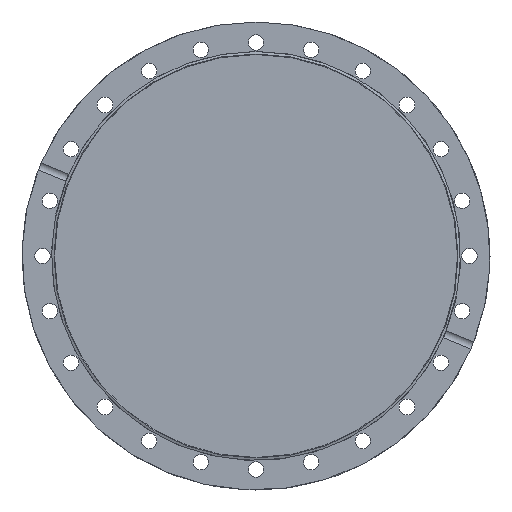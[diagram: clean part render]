
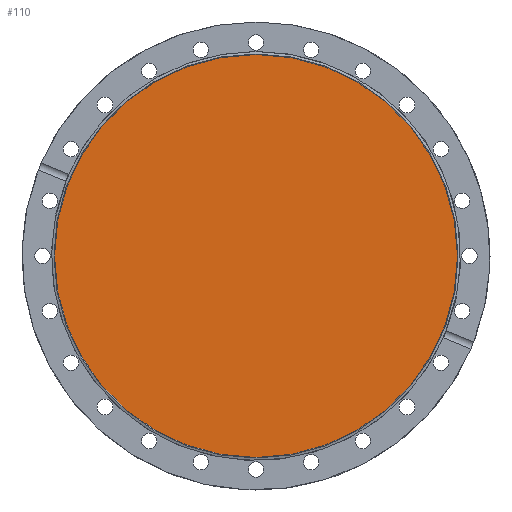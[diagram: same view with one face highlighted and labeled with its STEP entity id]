
A CAD part, left-side view. The second image highlights one B-rep face of the part: STEP entity #110.
In plain terms, the highlighted planar face has unit normal (-1, 0, 0).
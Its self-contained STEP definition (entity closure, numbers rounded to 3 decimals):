
#110 = ADVANCED_FACE( '', ( #279 ), #280, .F. );
#279 = FACE_OUTER_BOUND( '', #464, .T. );
#280 = PLANE( '', #465 );
#464 = EDGE_LOOP( '', ( #710 ) );
#465 = AXIS2_PLACEMENT_3D( '', #711, #712, #713 );
#710 = ORIENTED_EDGE( '', *, *, #857, .T. );
#711 = CARTESIAN_POINT( '', ( -23.3, 0., 109.335 ) );
#712 = DIRECTION( '', ( 1., 0., 0. ) );
#713 = DIRECTION( '', ( 0., 0., -1. ) );
#857 = EDGE_CURVE( '', #1011, #1011, #1012, .T. );
#1011 = VERTEX_POINT( '', #1241 );
#1012 = CIRCLE( '', #1242, 109.335 );
#1241 = CARTESIAN_POINT( '', ( -23.3, 0., 109.335 ) );
#1242 = AXIS2_PLACEMENT_3D( '', #1416, #1417, #1418 );
#1416 = CARTESIAN_POINT( '', ( -23.3, 0., 0. ) );
#1417 = DIRECTION( '', ( -1., 0., 0. ) );
#1418 = DIRECTION( '', ( 0., 0., 1. ) );
